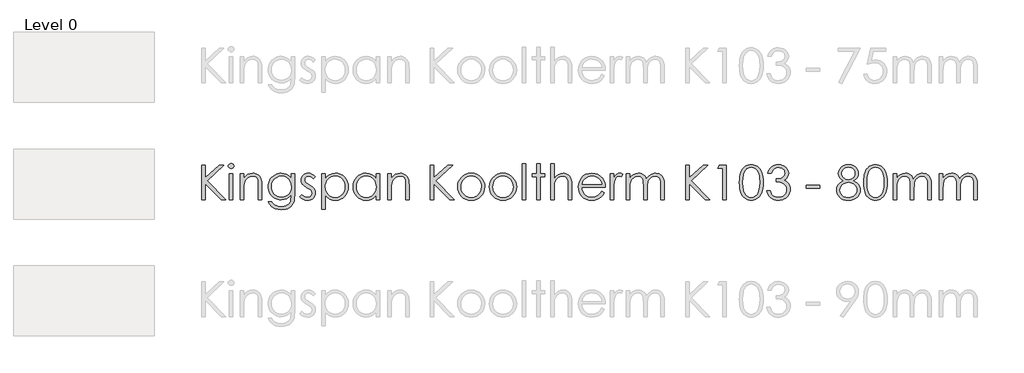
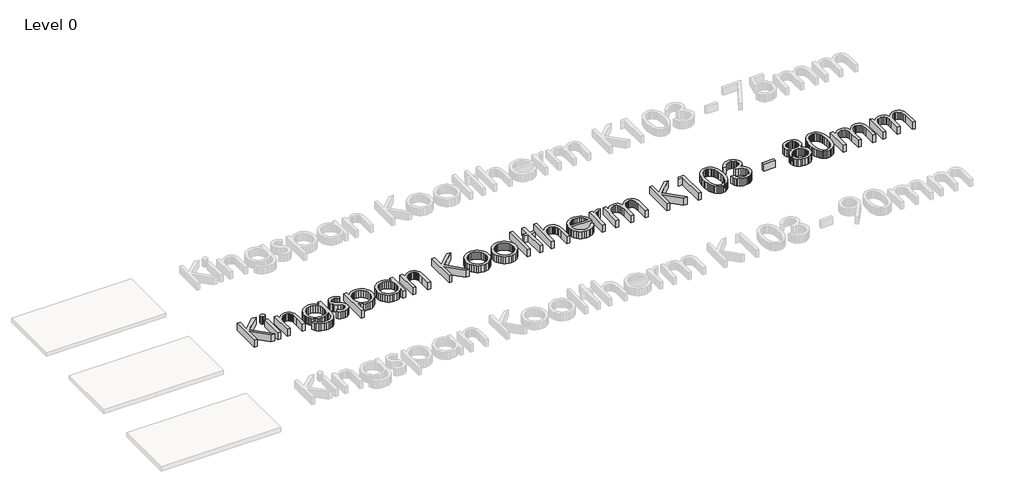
# One storey, part 7 of 13: 1 proxy.
"""IFC4 building model written with IfcOpenShell, lengths in millimetres."""

import ifcopenshell
import ifcopenshell.guid

model = None  # the IFC model being written
_history = None  # IfcOwnerHistory: only IFC2X3 demands one
_inside = {}  # id of a spatial element -> (the spatial element, [elements in it])
_under = {}  # id of a project, library or spatial element -> (it, [spatial elements below it])
_declared = {}  # id of a project -> (the project, [libraries it declares])
_typed = {}  # id of a type object -> (the type object, [elements of that type])
_made_of = {}  # id of a material, layer set ... -> (it, [elements and type objects made of it])


def new_model(schema):
    """Start an empty IFC model of exactly this schema.

    Asked for "IFC4X3", IfcOpenShell would pick the latest addendum, in which some entities
    have other attributes; the version numbers below select the first issue.
    IFC2X3 requires an IfcOwnerHistory on every rooted entity: one is made here for all.
    """
    global model, _history
    if schema == "IFC4X3":
        model = ifcopenshell.file(schema_version=(4, 3, 0, 0))
    else:
        model = ifcopenshell.file(schema=schema)
    _inside.clear()
    _under.clear()
    _declared.clear()
    _typed.clear()
    _made_of.clear()
    _history = None
    if model.schema == "IFC2X3":
        org = make("IfcOrganization", Name="unknown")
        user = make(
            "IfcPersonAndOrganization",
            ThePerson=make("IfcPerson", FamilyName="unknown"),
            TheOrganization=org,
        )
        app = make(
            "IfcApplication",
            ApplicationDeveloper=org,
            Version="unknown",
            ApplicationFullName="unknown",
            ApplicationIdentifier="unknown",
        )
        _history = make(
            "IfcOwnerHistory",
            OwningUser=user,
            OwningApplication=app,
            ChangeAction="ADDED",
            CreationDate=0,
        )
    return model


def make(cls, **values):
    """One entity of the class cls with the attributes given. An attribute that is None is left unset."""
    return model.create_entity(
        cls, **{name: value for name, value in values.items() if value is not None}
    )


def rooted(cls, **values):
    """An entity with a GlobalId (a new one), such as an element, a storey or a relation."""
    return make(cls, GlobalId=ifcopenshell.guid.new(), OwnerHistory=_history, **values)


def si_unit(unit_type, name, prefix=None):
    """IfcSIUnit, for example si_unit("LENGTHUNIT", "METRE", prefix="MILLI")."""
    return make("IfcSIUnit", UnitType=unit_type, Prefix=prefix, Name=name)


def assignment(units):
    """IfcUnitAssignment: the units of a project."""
    return None if units is None else make("IfcUnitAssignment", Units=units)


def point(xyz):
    """IfcCartesianPoint."""
    return None if xyz is None else make("IfcCartesianPoint", Coordinates=xyz)


def direction(xyz):
    """IfcDirection."""
    return None if xyz is None else make("IfcDirection", DirectionRatios=xyz)


def frame(location, z_axis=None, x_axis=None):
    """IfcAxis2Placement3D, a coordinate frame: its origin and axes. An axis left out is left unset."""
    return make(
        "IfcAxis2Placement3D",
        Location=point(location),
        Axis=direction(z_axis),
        RefDirection=direction(x_axis),
    )


def origin():
    """The frame at (0, 0, 0) with its axes left unset."""
    return frame((0.0, 0.0, 0.0))


def origin_with_axes():
    """The frame at (0, 0, 0) with the z axis (0, 0, 1) and the x axis (1, 0, 0) written out."""
    return frame((0.0, 0.0, 0.0), z_axis=(0.0, 0.0, 1.0), x_axis=(1.0, 0.0, 0.0))


def place(relative_to, where):
    """IfcLocalPlacement: puts the frame where relative to a parent placement (None: the world)."""
    return make(
        "IfcLocalPlacement", PlacementRelTo=relative_to, RelativePlacement=where
    )


def context(
    kind, dimensions, precision=None, world=None, true_north=None, identifier=None
):
    """IfcGeometricRepresentationContext, for example the 3D "Model" context."""
    return make(
        "IfcGeometricRepresentationContext",
        ContextIdentifier=identifier,
        ContextType=kind,
        CoordinateSpaceDimension=dimensions,
        Precision=precision,
        WorldCoordinateSystem=world,
        TrueNorth=true_north,
    )


def project(units=None, contexts=None):
    """IfcProject with its units and contexts."""
    return rooted(
        "IfcProject",
        Name="project",
        RepresentationContexts=contexts,
        UnitsInContext=assignment(units),
    )


def spatial(cls, under=None, at=None, **own):
    """A site, building, storey or space (cls), placed at a placement, below another one or the project."""
    s = rooted(cls, ObjectPlacement=at, **own)
    if under is not None:
        _under.setdefault(under.id(), (under, []))[1].append(s)
    return s


def polyline(points):
    """IfcPolyline through the points."""
    return make("IfcPolyline", Points=[point(p) for p in points])


def outline(outer, holes=None, kind="AREA"):
    """IfcArbitraryClosedProfileDef: a profile drawn as a closed curve; with holes, ...WithVoids."""
    if holes is None:
        return make("IfcArbitraryClosedProfileDef", ProfileType=kind, OuterCurve=outer)
    return make(
        "IfcArbitraryProfileDefWithVoids",
        ProfileType=kind,
        OuterCurve=outer,
        InnerCurves=holes,
    )


def extrude(swept, where, along, depth):
    """IfcExtrudedAreaSolid: the profile swept, set in the frame where, extruded along a direction by depth."""
    return make(
        "IfcExtrudedAreaSolid",
        SweptArea=swept,
        Position=where,
        ExtrudedDirection=direction(along),
        Depth=depth,
    )


def shape(context_of_items, identifier, shape_type, items):
    """IfcShapeRepresentation: the items that make up one representation, for example the "Body"."""
    return make(
        "IfcShapeRepresentation",
        ContextOfItems=context_of_items,
        RepresentationIdentifier=identifier,
        RepresentationType=shape_type,
        Items=items,
    )


def made_of(thing, what):
    """Note that an element or type object is made of a material, layer set ...; save() writes the relation."""
    if what is not None:
        _made_of.setdefault(what.id(), (what, []))[1].append(thing)
    return thing


def element(
    cls,
    number,
    at=None,
    inside=None,
    cuts=None,
    type_object=None,
    material=None,
    context=None,
    identifier="Body",
    shape_type=None,
    held_by="IfcProductDefinitionShape",
    body=None,
    shapes=None,
    **own,
):
    """One element of the class cls, such as IfcWall. Its Tag is "e" and its number.

    at: its placement. inside: the storey or other place that contains it. cuts: it is an
    opening in that element (IfcRelVoidsElement). A single representation is given by context,
    identifier, shape_type and body (its items); several are given by shapes. held_by: the class
    of the entity that holds the representations. save() writes the other relations.
    """
    e = rooted(cls, Tag="e%d" % number, ObjectPlacement=at, **own)
    if body is not None:
        shapes = [shape(context, identifier, shape_type, body)]
    if shapes is not None:
        e.Representation = make(held_by, Representations=shapes)
    if inside is not None:
        _inside.setdefault(inside.id(), (inside, []))[1].append(e)
    if cuts is not None:
        rooted(
            "IfcRelVoidsElement", RelatingBuildingElement=cuts, RelatedOpeningElement=e
        )
    if type_object is not None:
        _typed.setdefault(type_object.id(), (type_object, []))[1].append(e)
    return made_of(e, material)


def aggregate(whole, parts):
    """IfcRelAggregates: a whole, such as a stair, and the parts it consists of."""
    return rooted("IfcRelAggregates", RelatingObject=whole, RelatedObjects=parts)


def save(model, path):
    """Write the relations noted so far, then the file.

    IfcRelAggregates (storeys below a building ...), IfcRelContainedInSpatialStructure (elements
    in a storey), IfcRelDefinesByType, IfcRelAssociatesMaterial and IfcRelDeclares: one each for
    every whole, place, type object, material and project.
    """
    for whole, parts in _under.values():
        aggregate(whole, parts)
    for where, things in _inside.values():
        rooted(
            "IfcRelContainedInSpatialStructure",
            RelatedElements=things,
            RelatingStructure=where,
        )
    for kind, things in _typed.values():
        rooted("IfcRelDefinesByType", RelatedObjects=things, RelatingType=kind)
    for what, things in _made_of.values():
        rooted("IfcRelAssociatesMaterial", RelatedObjects=things, RelatingMaterial=what)
    for by, libraries in _declared.values():
        rooted("IfcRelDeclares", RelatingContext=by, RelatedDefinitions=libraries)
    model.write(path)


model = new_model("IFC4")

# Units and contexts
model_context = context("Model", 3, world=origin())
ifc_project = project(units=[si_unit("LENGTHUNIT", "METRE", prefix="MILLI")], contexts=[model_context])

# Site, building, storey
site = spatial("IfcSite", under=ifc_project)
building = spatial("IfcBuilding", under=site)
storey = spatial("IfcBuildingStorey", under=building, Name="Level 0", Elevation=0.0)

# Proxy
placement = place(None, origin())
element("IfcBuildingElementProxy", 1, Name="600mm KI_CenturyGothic", ObjectType="600mm KI_CenturyGothic", at=placement, inside=storey, context=model_context, shape_type="SweptSolid", body=[
    extrude(outline(polyline([(-3852.2663848, -6099.1034017), (-3792.944575, -6099.1034017), (-3792.944575, -6318.316027), (-3555.1938841, -6099.1034017), (-3471.6181051, -6099.1034017), (-3760.9664119, -6366.0515459), (-3441.9572002, -6692.3214999), (-3520.8984627, -6692.3214999), (-3792.944575, -6414.0960325), (-3792.944575, -6692.3214999), (-3852.2663848, -6692.3214999), (-3852.2663848, -6099.1034017)])), origin_with_axes(), (0.0, 0.0, 1.0), 150.0),
    extrude(outline(polyline([(-3348.1854852, -6069.4424967), (-3329.145347, -6072.7252792), (-3313.1176445, -6082.5736265), (-3302.226531, -6097.0178693), (-3298.5961598, -6114.088338), (-3302.226531, -6130.9270809), (-3313.1176445, -6145.2940817), (-3329.145347, -6155.142429), (-3348.1854852, -6158.4252115), (-3366.9938975, -6155.142429), (-3382.9443581, -6145.2940817), (-3393.8354717, -6130.9270809), (-3397.4658428, -6114.088338), (-3393.8354717, -6097.0178693), (-3382.9443581, -6082.5736265), (-3366.9938975, -6072.7252792), (-3348.1854852, -6069.4424967)])), origin_with_axes(), (0.0, 0.0, 1.0), 150.0),
    extrude(outline(polyline([(-3377.6919062, -6247.4079262), (-3318.3700964, -6247.4079262), (-3318.3700964, -6692.3214999), (-3377.6919062, -6692.3214999), (-3377.6919062, -6247.4079262)])), origin_with_axes(), (0.0, 0.0, 1.0), 150.0),
    extrude(outline(polyline([(-3189.8395084, -6247.4079262), (-3130.5176986, -6247.4079262), (-3130.5176986, -6326.5036726), (-3096.9946967, -6286.9944204), (-3060.0730495, -6259.303185), (-3019.7141359, -6242.9665147), (-2975.879335, -6237.5209579), (-2953.4357238, -6239.0995901), (-2932.2955704, -6243.8354865), (-2912.4588747, -6251.7286472), (-2893.9256368, -6262.7790723), (-2877.212412, -6276.5039994), (-2862.835756, -6292.4206667), (-2841.0921499, -6330.8292213), (-2833.6238199, -6355.2087086), (-2828.2892984, -6385.5551357), (-2824.0216812, -6464.1488095), (-2824.0216812, -6692.3214999), (-2883.343491, -6692.3214999), (-2883.343491, -6479.1337458), (-2883.343491, -6376.092998), (-2884.7290183, -6355.2956057), (-2889.8125035, -6337.2403023), (-2898.2849788, -6321.9270877), (-2910.1464442, -6309.355962), (-2924.7403432, -6299.5558909), (-2941.4101193, -6292.5558401), (-2980.977303, -6286.9557994), (-3005.3471351, -6289.1137461), (-3028.4038541, -6295.5875862), (-3050.1474602, -6306.3773197), (-3070.5779533, -6321.4829466), (-3088.6622225, -6339.7651482), (-3103.3671568, -6360.084606), (-3114.6927562, -6382.44132), (-3122.6390208, -6406.8352901), (-3128.5480292, -6453.9142525), (-3130.5176986, -6528.4141035), (-3130.5176986, -6692.3214999), (-3189.8395084, -6692.3214999), (-3189.8395084, -6247.4079262)])), origin_with_axes(), (0.0, 0.0, 1.0), 150.0),
    extrude(outline(polyline([(-2319.7862977, -6247.4079262), (-2260.4644879, -6247.4079262), (-2260.4644879, -6598.395301), (-2264.5196897, -6678.6496765), (-2269.588692, -6709.4499001), (-2276.6852953, -6734.0321474), (-2289.9371156, -6762.6454585), (-2307.2924139, -6787.7732271), (-2328.7511904, -6809.4154531), (-2354.3134448, -6827.5721366), (-2383.3226209, -6841.9343098), (-2415.122162, -6852.1930049), (-2449.7120682, -6858.348222), (-2487.0923395, -6860.3999611), (-2541.0458345, -6856.3833802), (-2589.206184, -6844.3336376), (-2630.260275, -6825.5059147), (-2662.8949946, -6801.1553932), (-2690.2000204, -6767.8061856), (-2715.2650299, -6721.9824048), (-2655.94322, -6721.9824048), (-2642.4355358, -6743.151524), (-2627.0933555, -6761.3951046), (-2609.9166791, -6776.7131468), (-2590.9055067, -6789.1056506), (-2569.7894914, -6798.6691682), (-2546.2982864, -6805.5002523), (-2492.1903075, -6810.9651195), (-2438.5071593, -6805.6354257), (-2415.083541, -6798.9733084), (-2393.93856, -6789.6463441), (-2359.6624492, -6765.6047903), (-2336.8567664, -6736.1176798), (-2329.3884364, -6717.4782342), (-2324.0539149, -6693.7697863), (-2319.7862977, -6631.1458835), (-2319.7862977, -6608.4367532), (-2354.757586, -6644.2190818), (-2396.6420279, -6670.6165148), (-2443.392712, -6686.8952536), (-2492.9627269, -6692.3214999), (-2522.4063889, -6690.4242447), (-2550.9521133, -6684.7324793), (-2578.5999001, -6675.2462036), (-2605.3497494, -6661.9654175), (-2630.1540674, -6645.4742634), (-2651.9652601, -6626.3568832), (-2670.7833277, -6604.6132772), (-2686.6082702, -6580.2434451), (-2699.1456025, -6553.9280817), (-2708.1008399, -6526.3478816), (-2713.4739824, -6497.5028447), (-2715.2650299, -6467.392971), (-2713.3967404, -6437.1044753), (-2707.7918722, -6407.8780563), (-2698.4504251, -6379.713714), (-2685.3723991, -6352.6114483), (-2668.9971079, -6327.4257483), (-2649.7638648, -6305.0111029), (-2627.67267, -6285.367512), (-2602.7235235, -6268.4949758), (-2575.9833294, -6254.943843), (-2548.5189922, -6245.2644624), (-2520.3305117, -6239.456834), (-2491.4178881, -6237.5209579), (-2444.5320306, -6242.4644421), (-2400.8903346, -6257.2948945), (-2359.6045177, -6283.8661218), (-2319.7862977, -6324.0319306), (-2319.7862977, -6247.4079262)]), holes=[polyline([(-2484.1571458, -6286.9557994), (-2529.0154023, -6292.9806707), (-2570.5908765, -6311.0552847), (-2606.2187212, -6339.7699758), (-2633.2340897, -6377.7150788), (-2650.2659375, -6421.9940208), (-2655.94322, -6469.7102292), (-2653.0080263, -6505.6229036), (-2644.2024452, -6538.2817613), (-2629.5264766, -6567.6868023), (-2608.9801206, -6593.8380266), (-2583.7606272, -6615.296803), (-2555.0652466, -6630.6245004), (-2522.8939786, -6639.8211189), (-2487.2468234, -6642.8866584), (-2451.3244937, -6639.845257), (-2419.1001219, -6630.7210528), (-2390.573708, -6615.5140459), (-2365.7452519, -6594.2242363), (-2345.6382095, -6567.9812872), (-2331.2760363, -6537.9148621), (-2322.6587323, -6504.024961), (-2319.7862977, -6466.3115838), (-2325.0773706, -6417.6105407), (-2340.9505892, -6374.3936754), (-2366.4983608, -6338.1672056), (-2400.8130926, -6310.4373492), (-2440.9982119, -6292.8261869), (-2484.1571458, -6286.9557994)])]), origin_with_axes(), (0.0, 0.0, 1.0), 150.0),
    extrude(outline(polyline([(-1904.5336289, -6298.6965743), (-1940.9918246, -6336.390641), (-1962.9575012, -6314.7628978), (-1984.6721416, -6299.3145098), (-2006.1357456, -6290.045477), (-2027.3483133, -6286.9557994), (-2052.181597, -6291.6289368), (-2073.2300256, -6305.6483489), (-2087.5970264, -6325.8857371), (-2092.3860267, -6349.212803), (-2088.4466878, -6370.7633042), (-2076.628671, -6391.2324183), (-2052.0657341, -6413.400855), (-2010.2006027, -6439.122421), (-1958.3326401, -6471.9888664), (-1939.8428507, -6487.8138088), (-1926.315856, -6503.2332311), (-1909.9791857, -6535.9065716), (-1904.5336289, -6572.4420092), (-1906.9474396, -6598.5884059), (-1914.1888714, -6622.6492701), (-1926.2579245, -6644.624602), (-1943.1545989, -6664.5144015), (-1963.6719892, -6681.0055557), (-1986.6031901, -6692.7849515), (-2011.9482016, -6699.852589), (-2039.7070237, -6702.2084682), (-2077.4397114, -6698.3270607), (-2113.3958344, -6686.6828383), (-2145.4512394, -6668.2027042), (-2171.4817731, -6643.8135617), (-2135.7959969, -6603.3387852), (-2114.0041146, -6624.9665283), (-2091.5749863, -6640.4149163), (-2068.5086121, -6649.6839491), (-2044.8049918, -6652.7736267), (-2013.637869, -6647.1349651), (-1987.4914724, -6630.2189802), (-1969.7644472, -6605.6560434), (-1963.8554388, -6577.0765256), (-1967.7561567, -6553.2860081), (-1979.4583106, -6532.2762005), (-2005.0253927, -6510.5712154), (-2050.2119275, -6483.7682622), (-2099.762632, -6453.1032121), (-2117.441381, -6437.9444814), (-2130.3890611, -6422.9016136), (-2146.3781427, -6390.7689666), (-2151.7078365, -6354.310771), (-2149.5305794, -6330.2643896), (-2142.9988078, -6308.3325063), (-2132.1125219, -6288.5151211), (-2116.8717217, -6270.812234), (-2098.309518, -6256.2473007), (-2077.4590218, -6245.8437769), (-2054.3202332, -6239.6016627), (-2028.8931521, -6237.5209579), (-1997.9481, -6241.3444339), (-1966.9064954, -6252.814862), (-1935.7683384, -6271.9322421), (-1904.5336289, -6298.6965743)])), origin_with_axes(), (0.0, 0.0, 1.0), 150.0),
    extrude(outline(polyline([(-1795.7769776, -6247.4079262), (-1736.4551678, -6247.4079262), (-1736.4551678, -6328.5119631), (-1700.9238754, -6288.2689124), (-1660.4490989, -6259.9211205), (-1614.9922173, -6243.1209986), (-1564.5146096, -6237.5209579), (-1520.0618732, -6241.7596094), (-1478.9305402, -6254.4755637), (-1441.1206107, -6275.668821), (-1406.6320845, -6305.3393811), (-1377.9077381, -6340.9768811), (-1357.3903478, -6380.070958), (-1345.0799137, -6422.6216116), (-1340.9764356, -6468.628842), (-1345.0412927, -6515.5291824), (-1357.235864, -6558.7508754), (-1377.5601494, -6598.293921), (-1406.014149, -6634.1583192), (-1440.2130179, -6663.9302594), (-1477.7719111, -6685.1959309), (-1518.6908288, -6697.9553339), (-1562.9697708, -6702.2084682), (-1612.6170277, -6696.743601), (-1658.0545988, -6680.3489992), (-1699.3211052, -6653.1019049), (-1736.4551678, -6615.07956), (-1736.4551678, -6850.5129928), (-1795.7769776, -6850.5129928), (-1795.7769776, -6247.4079262)]), holes=[polyline([(-1568.5311905, -6286.9557994), (-1602.5852307, -6290.2530647), (-1633.8392507, -6300.1448607), (-1662.2932503, -6316.6311872), (-1687.9472295, -6339.7120444), (-1709.1694525, -6367.6977647), (-1724.3281832, -6398.8986808), (-1733.4234216, -6433.3147926), (-1736.4551678, -6470.9461002), (-1731.048232, -6519.8016272), (-1714.8274246, -6563.4819442), (-1688.5265441, -6600.3263495), (-1652.8793888, -6628.6741414), (-1611.4390881, -6646.7487554), (-1567.7587711, -6652.7736267), (-1525.0632888, -6646.7101344), (-1485.0326535, -6628.5196576), (-1450.2544701, -6599.4187567), (-1423.3163435, -6560.6239924), (-1406.05277, -6515.9588407), (-1400.2982454, -6469.2467775), (-1405.9948385, -6422.3029886), (-1423.0846177, -6377.8695627), (-1449.8103289, -6339.5189395), (-1484.414718, -6310.8235589), (-1524.7157001, -6292.9227393), (-1568.5311905, -6286.9557994)])]), origin_with_axes(), (0.0, 0.0, 1.0), 150.0),
    extrude(outline(polyline([(-807.0801472, -6247.4079262), (-807.0801472, -6692.3214999), (-866.401957, -6692.3214999), (-866.401957, -6616.4699149), (-903.4780882, -6654.3184655), (-944.8797679, -6681.0441767), (-990.4525125, -6696.9173953), (-1040.0418379, -6702.2084682), (-1084.3159523, -6697.9553339), (-1125.2203871, -6685.1959309), (-1162.7551422, -6663.9302594), (-1196.9202178, -6634.1583192), (-1225.340424, -6598.293921), (-1245.6405713, -6558.7508754), (-1257.8206597, -6515.5291824), (-1261.8806892, -6468.628842), (-1257.7820388, -6422.6216116), (-1245.4860875, -6380.070958), (-1224.9928353, -6340.9768811), (-1196.3022822, -6305.3393811), (-1161.8475494, -6275.668821), (-1124.061758, -6254.4755637), (-1082.9449079, -6241.7596094), (-1038.4969991, -6237.5209579), (-987.7490446, -6243.1209986), (-942.0990581, -6259.9211205), (-921.2051134, -6272.6081091), (-901.6242816, -6288.2689124), (-866.401957, -6328.5119631), (-866.401957, -6247.4079262), (-807.0801472, -6247.4079262)]), holes=[polyline([(-1034.3259343, -6286.9557994), (-1078.1414247, -6292.9227393), (-1118.4424068, -6310.8235589), (-1153.0467959, -6339.5189395), (-1179.7725071, -6377.8695627), (-1196.8622863, -6422.3029886), (-1202.5588794, -6469.2467775), (-1196.8043548, -6515.9588407), (-1179.5407813, -6560.6239924), (-1152.6026548, -6599.4187567), (-1117.8244713, -6628.5196576), (-1077.6779731, -6646.7101344), (-1034.6349021, -6652.7736267), (-991.0125165, -6646.7487554), (-949.7460102, -6628.6741414), (-914.2726493, -6600.3263495), (-888.0297002, -6563.4819442), (-871.8088928, -6519.8016272), (-866.401957, -6470.9461002), (-869.4337032, -6433.3147926), (-878.5289416, -6398.8986808), (-893.6876723, -6367.6977647), (-914.9098953, -6339.7120444), (-940.5638746, -6316.6311872), (-969.0178742, -6300.1448607), (-1000.2718941, -6290.2530647), (-1034.3259343, -6286.9557994)])]), origin_with_axes(), (0.0, 0.0, 1.0), 150.0),
    extrude(outline(polyline([(-668.662591, -6247.4079262), (-609.3407811, -6247.4079262), (-609.3407811, -6326.5036726), (-575.8177792, -6286.9944204), (-538.896132, -6259.303185), (-498.5372184, -6242.9665147), (-454.7024175, -6237.5209579), (-432.2588064, -6239.0995901), (-411.1186529, -6243.8354865), (-391.2819572, -6251.7286472), (-372.7487193, -6262.7790723), (-356.0354946, -6276.5039994), (-341.6588385, -6292.4206667), (-319.9152324, -6330.8292213), (-312.4469024, -6355.2087086), (-307.1123809, -6385.5551357), (-302.8447637, -6464.1488095), (-302.8447637, -6692.3214999), (-362.1665735, -6692.3214999), (-362.1665735, -6479.1337458), (-362.1665735, -6376.092998), (-363.5521008, -6355.2956057), (-368.635586, -6337.2403023), (-377.1080613, -6321.9270877), (-388.9695267, -6309.355962), (-403.5634257, -6299.5558909), (-420.2332018, -6292.5558401), (-459.8003855, -6286.9557994), (-484.1702176, -6289.1137461), (-507.2269366, -6295.5875862), (-528.9705427, -6306.3773197), (-549.4010358, -6321.4829466), (-567.485305, -6339.7651482), (-582.1902393, -6360.084606), (-593.5158387, -6382.44132), (-601.4621033, -6406.8352901), (-607.3711117, -6453.9142525), (-609.3407811, -6528.4141035), (-609.3407811, -6692.3214999), (-668.662591, -6692.3214999), (-668.662591, -6247.4079262)])), origin_with_axes(), (0.0, 0.0, 1.0), 150.0),
    extrude(outline(polyline([(62.9730635, -6099.1034017), (122.2948734, -6099.1034017), (122.2948734, -6318.316027), (360.0455643, -6099.1034017), (443.6213432, -6099.1034017), (154.2730365, -6366.0515459), (473.2822481, -6692.3214999), (394.3409856, -6692.3214999), (122.2948734, -6414.0960325), (122.2948734, -6692.3214999), (62.9730635, -6692.3214999), (62.9730635, -6099.1034017)])), origin_with_axes(), (0.0, 0.0, 1.0), 150.0),
    extrude(outline(polyline([(760.1588128, -6237.5209579), (809.4681362, -6242.1458191), (854.3553585, -6256.0204025), (894.8204798, -6279.1447083), (930.8635, -6311.5187363), (957.7630055, -6346.7507161), (976.9769381, -6385.091684), (988.5052976, -6426.54164), (992.3480841, -6471.1005841), (988.283227, -6515.9153921), (976.0886558, -6557.8239721), (955.7643703, -6596.8263241), (927.3103707, -6632.9224481), (892.4742558, -6663.2350819), (853.0036246, -6684.8869632), (808.8984769, -6697.8780919), (760.1588128, -6702.2084682), (711.2839754, -6697.8780919), (667.0822753, -6684.8869632), (627.5537126, -6663.2350819), (592.6982872, -6632.9224481), (564.2442876, -6596.8263241), (543.9200022, -6557.8239721), (531.7254309, -6515.9153921), (527.6605738, -6471.1005841), (531.5033603, -6426.7347449), (543.0317198, -6385.4006518), (562.2456524, -6347.0983049), (589.145158, -6311.8277041), (625.2074886, -6279.3185026), (665.7305413, -6256.0976445), (710.7143161, -6242.1651295), (760.1588128, -6237.5209579)]), holes=[polyline([(760.004329, -6286.9557994), (725.7282181, -6290.3303067), (693.9624704, -6300.4538284), (664.7070856, -6317.3263647), (637.962064, -6340.9479154), (615.6584538, -6369.3584664), (599.7273037, -6400.5980035), (590.1686137, -6434.6665266), (586.9823836, -6471.5640357), (592.7948396, -6519.2995546), (610.2322075, -6563.6364281), (637.5758543, -6601.4270471), (673.1071466, -6629.5238028), (714.6439998, -6646.9611707), (760.004329, -6652.7736267), (805.3646581, -6646.9611707), (846.9015113, -6629.5238028), (882.4328037, -6601.4270471), (909.7764504, -6563.6364281), (927.2138183, -6519.2995546), (933.0262743, -6471.5640357), (929.8255614, -6434.6665266), (920.2234227, -6400.5980035), (904.2198583, -6369.3584664), (881.8148681, -6340.9479154), (854.9974321, -6317.3263647), (825.7565303, -6300.4538284), (794.0921625, -6290.3303067), (760.004329, -6286.9557994)])]), origin_with_axes(), (0.0, 0.0, 1.0), 150.0),
    extrude(outline(polyline([(1303.9420695, -6237.5209579), (1353.2513929, -6242.1458191), (1398.1386152, -6256.0204025), (1438.6037365, -6279.1447083), (1474.6467567, -6311.5187363), (1501.5462622, -6346.7507161), (1520.7601948, -6385.091684), (1532.2885543, -6426.54164), (1536.1313408, -6471.1005841), (1532.0664837, -6515.9153921), (1519.8719125, -6557.8239721), (1499.547627, -6596.8263241), (1471.0936274, -6632.9224481), (1436.2575126, -6663.2350819), (1396.7868813, -6684.8869632), (1352.6817336, -6697.8780919), (1303.9420695, -6702.2084682), (1255.0672321, -6697.8780919), (1210.865532, -6684.8869632), (1171.3369693, -6663.2350819), (1136.4815439, -6632.9224481), (1108.0275443, -6596.8263241), (1087.7032589, -6557.8239721), (1075.5086876, -6515.9153921), (1071.4438305, -6471.1005841), (1075.286617, -6426.7347449), (1086.8149766, -6385.4006518), (1106.0289091, -6347.0983049), (1132.9284147, -6311.8277041), (1168.9907453, -6279.3185026), (1209.5137981, -6256.0976445), (1254.4975728, -6242.1651295), (1303.9420695, -6237.5209579)]), holes=[polyline([(1303.7875857, -6286.9557994), (1269.5114748, -6290.3303067), (1237.7457271, -6300.4538284), (1208.4903423, -6317.3263647), (1181.7453207, -6340.9479154), (1159.4417105, -6369.3584664), (1143.5105604, -6400.5980035), (1133.9518704, -6434.6665266), (1130.7656404, -6471.5640357), (1136.5780963, -6519.2995546), (1154.0154643, -6563.6364281), (1181.359111, -6601.4270471), (1216.8904033, -6629.5238028), (1258.4272565, -6646.9611707), (1303.7875857, -6652.7736267), (1349.1479149, -6646.9611707), (1390.684768, -6629.5238028), (1426.2160604, -6601.4270471), (1453.5597071, -6563.6364281), (1470.997075, -6519.2995546), (1476.809531, -6471.5640357), (1473.6088181, -6434.6665266), (1464.0066795, -6400.5980035), (1448.003115, -6369.3584664), (1425.5981249, -6340.9479154), (1398.7806889, -6317.3263647), (1369.539787, -6300.4538284), (1337.8754193, -6290.3303067), (1303.7875857, -6286.9557994)])]), origin_with_axes(), (0.0, 0.0, 1.0), 150.0),
    extrude(outline(polyline([(1635.0010238, -6079.3294651), (1694.3228337, -6079.3294651), (1694.3228337, -6692.3214999), (1635.0010238, -6692.3214999), (1635.0010238, -6079.3294651)])), origin_with_axes(), (0.0, 0.0, 1.0), 150.0),
    extrude(outline(polyline([(1882.1752314, -6079.3294651), (1941.4970413, -6079.3294651), (1941.4970413, -6247.4079262), (2020.5927877, -6247.4079262), (2020.5927877, -6296.8427677), (1941.4970413, -6296.8427677), (1941.4970413, -6692.3214999), (1882.1752314, -6692.3214999), (1882.1752314, -6296.8427677), (1803.079485, -6296.8427677), (1803.079485, -6247.4079262), (1882.1752314, -6247.4079262), (1882.1752314, -6079.3294651)])), origin_with_axes(), (0.0, 0.0, 1.0), 150.0),
    extrude(outline(polyline([(2119.4624707, -6079.3294651), (2178.7842806, -6079.3294651), (2178.7842806, -6328.0485114), (2212.5583188, -6288.3461544), (2249.6151394, -6260.0756044), (2289.9161216, -6243.1596195), (2333.4226442, -6237.5209579), (2355.8662553, -6239.0995901), (2377.0064088, -6243.8354865), (2396.8431044, -6251.7286472), (2415.3763424, -6262.7790723), (2432.0895671, -6276.4895166), (2446.4662232, -6292.3627352), (2468.2098293, -6330.5974955), (2475.6781593, -6354.9045684), (2481.0126808, -6385.2654784), (2485.280298, -6464.1488095), (2485.280298, -6692.3214999), (2425.9584882, -6692.3214999), (2425.9584882, -6479.1337458), (2424.5681332, -6414.752589), (2420.3970685, -6376.092998), (2406.879729, -6337.2403023), (2397.1665551, -6321.9270877), (2385.4837117, -6309.355962), (2371.840854, -6299.5558909), (2356.2476374, -6292.5558401), (2319.2101273, -6286.9557994), (2296.3416854, -6289.1137461), (2274.6994594, -6295.5875862), (2254.2834492, -6306.3773197), (2235.0936547, -6321.4829466), (2218.1052556, -6339.7651482), (2204.2934312, -6360.084606), (2193.6581816, -6382.44132), (2186.1995068, -6406.8352901), (2180.6380871, -6453.6825267), (2178.7842806, -6528.4141035), (2178.7842806, -6692.3214999), (2119.4624707, -6692.3214999), (2119.4624707, -6079.3294651)])), origin_with_axes(), (0.0, 0.0, 1.0), 150.0),
    extrude(outline(polyline([(2991.0605203, -6544.0169753), (3038.950523, -6569.1978477), (3013.3255094, -6611.0822896), (2984.0315038, -6644.0452875), (2950.952643, -6669.1296074), (2913.9730643, -6687.3780157), (2872.4941426, -6698.5008551), (2825.9172528, -6702.2084682), (2774.4258447, -6697.7767119), (2728.8627554, -6684.481443), (2689.227985, -6662.3226615), (2655.5215335, -6631.3003674), (2628.6220279, -6594.6973431), (2609.4080954, -6555.7963712), (2597.8797358, -6514.5974515), (2594.0369493, -6471.1005841), (2597.3197318, -6430.2202874), (2607.1680791, -6391.618628), (2623.5819913, -6355.2956057), (2646.5614684, -6321.2512207), (2682.7493173, -6284.6192308), (2724.5758277, -6258.4535236), (2772.0409998, -6242.7540993), (2825.1448334, -6237.5209579), (2879.7935059, -6242.8892727), (2928.6490329, -6258.9942172), (2971.7114143, -6285.8357913), (3008.9806503, -6323.4139951), (3030.4539096, -6355.585263), (3045.9022976, -6391.541386), (3055.3258143, -6431.2823641), (3058.7244596, -6474.8081972), (2653.3587591, -6474.8081972), (2657.095338, -6512.0629503), (2666.6057518, -6545.8128504), (2681.8900007, -6576.0578975), (2702.9480845, -6602.7980916), (2728.3124066, -6624.6623882), (2756.5153699, -6640.2797429), (2787.5569744, -6649.6501557), (2821.4372203, -6652.7736267), (2854.9602222, -6649.761191), (2887.5563208, -6640.7238841), (2917.2944677, -6626.6851615), (2942.2436143, -6608.668479), (2965.725164, -6582.5027719), (2991.0605203, -6544.0169753)]), holes=[polyline([(2999.4026498, -6425.3733557), (2984.9777175, -6382.8516678), (2965.1844704, -6349.8307385), (2939.0766947, -6324.3022774), (2905.7081767, -6304.257994), (2867.7630738, -6291.2813481), (2827.9255433, -6286.9557994), (2795.503239, -6289.6689226), (2765.4368139, -6297.808292), (2737.726268, -6311.3739077), (2712.3716012, -6330.3657696), (2695.8321708, -6348.179692), (2681.4362043, -6369.9522638), (2669.1837016, -6395.683485), (2659.0746627, -6425.3733557), (2999.4026498, -6425.3733557)])]), origin_with_axes(), (0.0, 0.0, 1.0), 150.0),
    extrude(outline(polyline([(3137.820206, -6247.4079262), (3197.1420159, -6247.4079262), (3197.1420159, -6311.8277041), (3222.6897875, -6278.7874643), (3249.589293, -6255.6728138), (3277.7632906, -6242.0589219), (3307.1345382, -6237.5209579), (3330.4616041, -6241.305813), (3355.3335087, -6252.6603781), (3325.8270877, -6294.6799934), (3297.2475699, -6286.9557994), (3270.8308265, -6292.9034288), (3245.3409863, -6310.7463169), (3223.2884125, -6341.1023993), (3207.183468, -6384.5896114), (3199.6523789, -6442.7141712), (3197.1420159, -6540.1548783), (3197.1420159, -6692.3214999), (3137.820206, -6692.3214999), (3137.820206, -6247.4079262)])), origin_with_axes(), (0.0, 0.0, 1.0), 150.0),
    extrude(outline(polyline([(3414.6553185, -6247.4079262), (3473.9771284, -6247.4079262), (3473.9771284, -6323.5684789), (3503.5607913, -6287.0716623), (3533.9168737, -6261.9294109), (3577.3268439, -6243.6230712), (3622.8995884, -6237.5209579), (3653.7384329, -6240.668567), (3682.9165757, -6250.1113941), (3708.6767627, -6264.7873627), (3729.2617397, -6283.634396), (3746.0425511, -6309.0663047), (3760.3902414, -6343.4968994), (3775.16759, -6319.0981017), (3791.6925376, -6297.808292), (3809.965084, -6279.6274704), (3829.9852293, -6264.5556369), (3851.2798666, -6252.7279648), (3873.375889, -6244.2796277), (3896.2732965, -6239.2106253), (3919.9720892, -6237.5209579), (3962.3006723, -6243.3334139), (3981.4952943, -6250.5989839), (3999.3768034, -6260.7707818), (4015.4914031, -6273.53984), (4029.385297, -6288.5971907), (4050.5109676, -6325.5767694), (4057.8103309, -6348.9521114), (4063.0241619, -6377.5219739), (4067.1952266, -6450.2452603), (4067.1952266, -6692.3214999), (4007.8734168, -6692.3214999), (4007.8734168, -6446.6921311), (4005.4209852, -6385.5744462), (3998.0636904, -6347.1272706), (3984.7587663, -6322.6608861), (3964.4634466, -6303.4855746), (3938.3942919, -6291.0882432), (3907.7678627, -6286.9557994), (3888.1194443, -6288.5054659), (3869.3399976, -6293.1544651), (3834.3880198, -6311.7504621), (3805.6540182, -6340.6968791), (3785.8800816, -6377.9468046), (3779.1889985, -6402.1042213), (3774.4096535, -6433.1747916), (3770.5861775, -6516.0553931), (3770.5861775, -6692.3214999), (3711.2643677, -6692.3214999), (3711.2643677, -6461.9860352), (3708.850557, -6393.530366), (3701.6091252, -6351.2983353), (3688.3621325, -6325.0553863), (3667.9316394, -6304.5669617), (3641.6114484, -6291.35859), (3610.6953619, -6286.9557994), (3573.7544042, -6292.9999812), (3539.2465676, -6311.1325266), (3510.2808401, -6339.499629), (3489.9662099, -6376.2474819), (3477.9743988, -6428.0768236), (3473.9771284, -6501.6883923), (3473.9771284, -6692.3214999), (3414.6553185, -6692.3214999), (3414.6553185, -6247.4079262)])), origin_with_axes(), (0.0, 0.0, 1.0), 150.0),
    extrude(outline(polyline([(4433.0130538, -6099.1034017), (4492.3348637, -6099.1034017), (4492.3348637, -6318.316027), (4730.0855546, -6099.1034017), (4813.6613335, -6099.1034017), (4524.3130268, -6366.0515459), (4843.3222385, -6692.3214999), (4764.3809759, -6692.3214999), (4492.3348637, -6414.0960325), (4492.3348637, -6692.3214999), (4433.0130538, -6692.3214999), (4433.0130538, -6099.1034017)])), origin_with_axes(), (0.0, 0.0, 1.0), 150.0),
    extrude(outline(polyline([(5010.6282802, -6099.1034017), (5125.1008351, -6099.1034017), (5125.1008351, -6692.3214999), (5065.7790253, -6692.3214999), (5065.7790253, -6148.5382432), (4976.7963106, -6148.5382432), (5010.6282802, -6099.1034017)])), origin_with_axes(), (0.0, 0.0, 1.0), 150.0),
    extrude(outline(polyline([(5352.5011061, -6395.8669347), (5354.0797383, -6341.4355052), (5358.8156347, -6293.5406748), (5366.7087954, -6252.1824436), (5377.7592204, -6217.3608116), (5391.6869077, -6187.7192172), (5408.2118552, -6161.9010988), (5427.334063, -6139.9064564), (5449.053531, -6121.73529), (5472.747496, -6107.5082902), (5497.793195, -6097.3461475), (5524.190628, -6091.2488619), (5551.9397949, -6089.2164334), (5580.1427582, -6091.2633448), (5606.974677, -6097.404079), (5632.4355515, -6107.638636), (5656.5253815, -6121.9670159), (5678.7083011, -6140.3843909), (5698.4484443, -6162.8859335), (5715.7458112, -6189.4716437), (5730.6004018, -6220.1415214), (5742.5294539, -6255.6583309), (5751.0502054, -6296.7848363), (5756.1626563, -6343.5210375), (5757.8668066, -6395.8669347), (5756.1867944, -6448.0535203), (5751.1467578, -6494.6207548), (5742.7466968, -6535.5686382), (5730.9866115, -6570.8971704), (5716.2768496, -6601.4222195), (5699.0277589, -6627.9596535), (5679.2393394, -6650.5094723), (5656.9115912, -6669.071676), (5632.6527944, -6683.5690226), (5607.0712295, -6693.9242701), (5580.1668963, -6700.1374187), (5551.9397949, -6702.2084682), (5524.2147661, -6700.2001778), (5497.8897474, -6694.1753064), (5472.964739, -6684.1338543), (5449.4397407, -6670.0758212), (5427.8651013, -6652.0398282), (5408.7911698, -6630.0644964), (5392.2179461, -6604.1498255), (5378.1454301, -6574.2958158), (5366.9260384, -6539.2762513), (5358.9121871, -6497.8649163), (5354.1038764, -6450.0618107), (5352.5011061, -6395.8669347)]), holes=[polyline([(5411.8229159, -6395.7124508), (5416.206396, -6484.038609), (5421.6857461, -6519.0195525), (5429.3568363, -6547.8790723), (5439.1713903, -6572.1185586), (5451.0811319, -6593.2394015), (5465.0860611, -6611.2416011), (5481.1861779, -6626.1251574), (5516.4857445, -6646.1115094), (5534.8886366, -6651.1080973), (5553.7936014, -6652.7736267), (5572.7854634, -6651.1418907), (5591.1400794, -6646.2466828), (5625.9375733, -6626.665851), (5641.694929, -6611.9898824), (5655.4439943, -6594.0697524), (5667.1847692, -6572.9054608), (5676.9172536, -6548.4970078), (5686.3793912, -6515.1381451), (5693.138061, -6478.5544313), (5698.5449967, -6395.7124508), (5693.7173755, -6314.1063413), (5687.682849, -6279.4150551), (5679.2345118, -6248.7982811), (5668.652366, -6222.135329), (5656.2164137, -6199.3055082), (5641.9266548, -6180.3088186), (5625.7830894, -6165.1452603), (5590.7152487, -6145.2747712), (5572.4861509, -6140.307149), (5553.7936014, -6138.6512749), (5534.7776014, -6140.307149), (5516.3505711, -6145.2747712), (5481.2634199, -6165.1452603), (5465.3177869, -6179.9564022), (5451.3900996, -6197.8958428), (5439.480358, -6218.9635819), (5429.5885621, -6243.1596195), (5421.8160919, -6272.0143117), (5416.2643275, -6307.0580143), (5411.8229159, -6395.7124508)])]), origin_with_axes(), (0.0, 0.0, 1.0), 150.0),
    extrude(outline(polyline([(5896.2843628, -6237.5209579), (5836.962553, -6237.5209579), (5847.4867673, -6203.8917483), (5861.9116996, -6174.3756721), (5880.2373498, -6148.9727291), (5902.463718, -6127.6829194), (5927.7314876, -6110.8538318), (5955.181342, -6098.8330549), (5984.8132812, -6091.6205887), (6016.6273051, -6089.2164334), (6062.9145376, -6094.3723328), (6105.9962296, -6109.8400313), (6142.7827034, -6134.0553795), (6170.1842816, -6165.454228), (6187.2161294, -6201.2365567), (6192.8934119, -6238.6023451), (6188.2106193, -6274.037085), (6174.1622415, -6305.5711069), (6150.7482785, -6333.2044109), (6117.9687303, -6356.936997), (6155.3538292, -6378.1012885), (6185.3237018, -6407.2987418), (6201.6120959, -6431.398227), (6213.2466631, -6456.8880672), (6220.2274034, -6483.7682622), (6222.5543169, -6512.0388122), (6220.8549942, -6536.7031292), (6215.7570261, -6560.7977868), (6207.2604128, -6584.3227851), (6195.365154, -6607.2781241), (6180.5347016, -6628.6644862), (6163.232507, -6647.4825538), (6143.4585704, -6663.7323269), (6121.2128917, -6677.4138055), (6097.0361646, -6688.2614704), (6071.4690825, -6696.0098025), (6044.5116454, -6700.6588018), (6016.1638535, -6702.2084682), (5978.6290984, -6699.5387936), (5944.3481599, -6691.52977), (5913.3210382, -6678.1813973), (5885.5477332, -6659.4936754), (5861.6654909, -6635.6403989), (5842.3115573, -6606.795362), (5827.4859325, -6572.9585647), (5817.1886164, -6534.130007), (5876.5104262, -6534.130007), (5895.5505644, -6584.8779615), (5907.6485832, -6604.169136), (5921.4652352, -6619.4051087), (5941.5288291, -6634.0038353), (5964.180028, -6644.4314972), (5989.4188318, -6650.6880943), (6017.2452407, -6652.7736267), (6048.6054683, -6650.2777465), (6076.7215344, -6642.7901059), (6101.593439, -6630.310705), (6123.2211822, -6612.8395438), (6140.7261368, -6592.0180133), (6153.2296758, -6569.487505), (6160.7317992, -6545.2480188), (6163.232507, -6519.2995546), (6158.2310914, -6484.7337865), (6143.2268446, -6452.4080346), (6119.8032263, -6425.0450774), (6089.5436964, -6405.3676933), (6046.6357988, -6392.5648417), (5985.2670776, -6385.8254825), (5985.2670776, -6336.390641), (6027.1515195, -6332.7409593), (6065.0580014, -6321.7919143), (6096.0706403, -6305.2042077), (6117.2735528, -6284.6385412), (6129.4970898, -6261.0797496), (6133.5716021, -6235.5126675), (6131.5102078, -6216.4821845), (6125.326025, -6198.7841251), (6115.0190537, -6182.4184891), (6100.5892938, -6167.3852765), (6083.0119248, -6154.8141508), (6063.2621263, -6145.8347753), (6041.3398983, -6140.44715), (6017.2452407, -6138.6512749), (5979.2228958, -6144.270626), (5946.7233496, -6161.1286794), (5932.4191078, -6174.3322235), (5919.2445295, -6191.4654513), (5896.2843628, -6237.5209579)])), origin_with_axes(), (0.0, 0.0, 1.0), 150.0),
    extrude(outline(polyline([(6499.3894294, -6445.1472923), (6726.7897004, -6445.1472923), (6726.7897004, -6494.5821338), (6499.3894294, -6494.5821338), (6499.3894294, -6445.1472923)])), origin_with_axes(), (0.0, 0.0, 1.0), 150.0),
    extrude(outline(polyline([(7304.095959, -6368.2143202), (7356.1956474, -6399.6131687), (7376.0178602, -6416.8477766), (7391.6883188, -6435.1058401), (7403.5835775, -6454.5225327), (7412.0801909, -6475.2330279), (7417.1781589, -6497.2373255), (7418.8774816, -6520.5354256), (7416.0581508, -6553.2184214), (7407.6001584, -6583.9124373), (7393.5035044, -6612.6174732), (7373.7681887, -6639.3335291), (7343.0741729, -6666.841315), (7306.4518381, -6686.4897334), (7263.9011845, -6698.2787845), (7215.422212, -6702.2084682), (7168.7584251, -6698.756719), (7128.100199, -6688.4014714), (7093.4475337, -6671.1427255), (7064.8004292, -6646.9804812), (7042.3616457, -6618.6664826), (7026.3339432, -6588.9524739), (7016.7173217, -6557.838455), (7013.5117812, -6525.3244259), (7015.2255867, -6501.5966675), (7020.3670033, -6479.0758144), (7028.936031, -6457.7618666), (7040.9326698, -6437.6548241), (7056.8300266, -6418.6871003), (7077.1012082, -6400.7911083), (7101.7462146, -6383.9668483), (7130.7650459, -6368.2143202), (7092.3951123, -6343.2651736), (7065.0321551, -6312.9090912), (7048.6375533, -6278.6522909), (7043.1726861, -6242.0009904), (7048.9658316, -6204.2876133), (7066.345268, -6167.4625184), (7093.9592615, -6134.9436618), (7130.4560781, -6110.1489991), (7173.055008, -6094.4495748), (7218.9753412, -6089.2164334), (7263.7177349, -6094.4881958), (7304.9456203, -6110.3034829), (7340.1486344, -6135.1753876), (7366.8164141, -6167.6170023), (7383.6165361, -6204.7510649), (7389.2165767, -6243.7003131), (7383.9061933, -6281.2398959), (7367.9750432, -6314.45393), (7341.3845054, -6343.4196575), (7304.095959, -6368.2143202)]), holes=[polyline([(7216.0401475, -6138.6512749), (7192.5344597, -6140.5099091), (7171.14327, -6146.0858116), (7151.8665783, -6155.3789825), (7134.7043848, -6168.3894217), (7120.6125584, -6183.9778107), (7110.5469681, -6201.0048308), (7104.507614, -6219.4704821), (7102.4944959, -6239.3747645), (7104.6620978, -6259.2838745), (7111.1649037, -6278.2274602), (7122.0029133, -6296.2055217), (7137.1761269, -6313.218059), (7155.236258, -6327.6816122), (7174.7350202, -6338.0127217), (7195.6724135, -6344.2113874), (7218.048438, -6346.2776093), (7246.7631291, -6342.5313752), (7273.8943605, -6331.2926729), (7297.3565997, -6313.5463372), (7315.0643144, -6290.2772028), (7326.1871538, -6264.2273586), (7329.8947669, -6238.1388934), (7328.0699261, -6219.9677271), (7322.5954036, -6202.5303592), (7313.4711994, -6185.8267897), (7300.6973136, -6169.8570186), (7284.4571958, -6156.2045057), (7264.9342955, -6146.4527108), (7242.1286127, -6140.6016339), (7216.0401475, -6138.6512749)]), polyline([(7219.284309, -6395.7124508), (7189.4158164, -6398.2228138), (7162.067342, -6405.753903), (7137.238886, -6418.3057182), (7114.9304482, -6435.8782595), (7096.5130732, -6456.7818595), (7083.3578053, -6479.3268507), (7075.4646446, -6503.5132331), (7072.833591, -6529.3410068), (7077.332934, -6561.4543433), (7090.830963, -6591.6752522), (7112.4007747, -6617.6092335), (7141.1154658, -6636.8617871), (7175.9902017, -6648.7956668), (7216.0401475, -6652.7736267), (7247.2603741, -6650.3549884), (7275.110921, -6643.0990737), (7299.5917884, -6631.0058825), (7320.702976, -6614.0754148), (7337.7010304, -6593.9104409), (7349.8424979, -6572.113731), (7357.1273783, -6548.6852851), (7359.5556718, -6523.6251032), (7356.9873773, -6499.2938921), (7349.2824938, -6476.353036), (7336.4410213, -6454.8025348), (7318.4629598, -6434.6423885), (7296.8545271, -6417.6105407), (7273.1219411, -6405.4449352), (7247.2652017, -6398.1455719), (7219.284309, -6395.7124508)])]), origin_with_axes(), (0.0, 0.0, 1.0), 150.0),
    extrude(outline(polyline([(7478.1992914, -6395.8669347), (7479.7779236, -6341.4355052), (7484.51382, -6293.5406748), (7492.4069808, -6252.1824436), (7503.4574058, -6217.3608116), (7517.3850931, -6187.7192172), (7533.9100406, -6161.9010988), (7553.0322483, -6139.9064564), (7574.7517163, -6121.73529), (7598.4456813, -6107.5082902), (7623.4913804, -6097.3461475), (7649.8888133, -6091.2488619), (7677.6379802, -6089.2164334), (7705.8409435, -6091.2633448), (7732.6728624, -6097.404079), (7758.1337368, -6107.638636), (7782.2235668, -6121.9670159), (7804.4064864, -6140.3843909), (7824.1466297, -6162.8859335), (7841.4439966, -6189.4716437), (7856.2985871, -6220.1415214), (7868.2276392, -6255.6583309), (7876.7483907, -6296.7848363), (7881.8608416, -6343.5210375), (7883.5649919, -6395.8669347), (7881.8849797, -6448.0535203), (7876.8449431, -6494.6207548), (7868.4448822, -6535.5686382), (7856.6847968, -6570.8971704), (7841.9750349, -6601.4222195), (7824.7259442, -6627.9596535), (7804.9375247, -6650.5094723), (7782.6097765, -6669.071676), (7758.3509797, -6683.5690226), (7732.7694148, -6693.9242701), (7705.8650816, -6700.1374187), (7677.6379802, -6702.2084682), (7649.9129514, -6700.2001778), (7623.5879328, -6694.1753064), (7598.6629243, -6684.1338543), (7575.137926, -6670.0758212), (7553.5632867, -6652.0398282), (7534.4893551, -6630.0644964), (7517.9161314, -6604.1498255), (7503.8436155, -6574.2958158), (7492.6242237, -6539.2762513), (7484.6103725, -6497.8649163), (7479.8020617, -6450.0618107), (7478.1992914, -6395.8669347)]), holes=[polyline([(7537.5211013, -6395.7124508), (7541.9045814, -6484.038609), (7547.3839315, -6519.0195525), (7555.0550216, -6547.8790723), (7564.8695756, -6572.1185586), (7576.7793172, -6593.2394015), (7590.7842464, -6611.2416011), (7606.8843633, -6626.1251574), (7642.1839298, -6646.1115094), (7660.586822, -6651.1080973), (7679.4917868, -6652.7736267), (7698.4836487, -6651.1418907), (7716.8382647, -6646.2466828), (7751.6357586, -6626.665851), (7767.3931143, -6611.9898824), (7781.1421796, -6594.0697524), (7792.8829545, -6572.9054608), (7802.6154389, -6548.4970078), (7812.0775766, -6515.1381451), (7818.8362463, -6478.5544313), (7824.2431821, -6395.7124508), (7819.4155608, -6314.1063413), (7813.3810343, -6279.4150551), (7804.9326971, -6248.7982811), (7794.3505514, -6222.135329), (7781.914599, -6199.3055082), (7767.6248402, -6180.3088186), (7751.4812747, -6165.1452603), (7716.413434, -6145.2747712), (7698.1843362, -6140.307149), (7679.4917868, -6138.6512749), (7660.4757867, -6140.307149), (7642.0487564, -6145.2747712), (7606.9616052, -6165.1452603), (7591.0159723, -6179.9564022), (7577.088285, -6197.8958428), (7565.1785434, -6218.9635819), (7555.2867474, -6243.1596195), (7547.5142772, -6272.0143117), (7541.9625128, -6307.0580143), (7537.5211013, -6395.7124508)])]), origin_with_axes(), (0.0, 0.0, 1.0), 150.0),
    extrude(outline(polyline([(7982.4346749, -6247.4079262), (8041.7564848, -6247.4079262), (8041.7564848, -6323.5684789), (8071.3401477, -6287.0716623), (8101.6962301, -6261.9294109), (8145.1062003, -6243.6230712), (8190.6789448, -6237.5209579), (8221.5177893, -6240.668567), (8250.6959321, -6250.1113941), (8276.4561191, -6264.7873627), (8297.0410961, -6283.634396), (8313.8219075, -6309.0663047), (8328.1695978, -6343.4968994), (8342.9469464, -6319.0981017), (8359.471894, -6297.808292), (8377.7444404, -6279.6274704), (8397.7645856, -6264.5556369), (8419.0592229, -6252.7279648), (8441.1552454, -6244.2796277), (8464.0526529, -6239.2106253), (8487.7514456, -6237.5209579), (8530.0800287, -6243.3334139), (8549.2746507, -6250.5989839), (8567.1561598, -6260.7707818), (8583.2707595, -6273.53984), (8597.1646534, -6288.5971907), (8618.290324, -6325.5767694), (8625.5896873, -6348.9521114), (8630.8035182, -6377.5219739), (8634.974583, -6450.2452603), (8634.974583, -6692.3214999), (8575.6527732, -6692.3214999), (8575.6527732, -6446.6921311), (8573.2003416, -6385.5744462), (8565.8430468, -6347.1272706), (8552.5381227, -6322.6608861), (8532.242803, -6303.4855746), (8506.1736483, -6291.0882432), (8475.5472191, -6286.9557994), (8455.8988006, -6288.5054659), (8437.119354, -6293.1544651), (8402.1673762, -6311.7504621), (8373.4333746, -6340.6968791), (8353.659438, -6377.9468046), (8346.9683549, -6402.1042213), (8342.1890099, -6433.1747916), (8338.3655339, -6516.0553931), (8338.3655339, -6692.3214999), (8279.0437241, -6692.3214999), (8279.0437241, -6461.9860352), (8276.6299134, -6393.530366), (8269.3884816, -6351.2983353), (8256.1414889, -6325.0553863), (8235.7109958, -6304.5669617), (8209.3908048, -6291.35859), (8178.4747183, -6286.9557994), (8141.5337606, -6292.9999812), (8107.025924, -6311.1325266), (8078.0601965, -6339.499629), (8057.7455663, -6376.2474819), (8045.7537552, -6428.0768236), (8041.7564848, -6501.6883923), (8041.7564848, -6692.3214999), (7982.4346749, -6692.3214999), (7982.4346749, -6247.4079262)])), origin_with_axes(), (0.0, 0.0, 1.0), 150.0),
    extrude(outline(polyline([(8773.3921393, -6247.4079262), (8832.7139491, -6247.4079262), (8832.7139491, -6323.5684789), (8862.2976121, -6287.0716623), (8892.6536944, -6261.9294109), (8936.0636646, -6243.6230712), (8981.6364092, -6237.5209579), (9012.4752537, -6240.668567), (9041.6533964, -6250.1113941), (9067.4135834, -6264.7873627), (9087.9985604, -6283.634396), (9104.7793718, -6309.0663047), (9119.1270621, -6343.4968994), (9133.9044108, -6319.0981017), (9150.4293583, -6297.808292), (9168.7019047, -6279.6274704), (9188.72205, -6264.5556369), (9210.0166873, -6252.7279648), (9232.1127097, -6244.2796277), (9255.0101172, -6239.2106253), (9278.7089099, -6237.5209579), (9321.037493, -6243.3334139), (9340.232115, -6250.5989839), (9358.1136241, -6260.7707818), (9374.2282238, -6273.53984), (9388.1221177, -6288.5971907), (9409.2477883, -6325.5767694), (9416.5471516, -6348.9521114), (9421.7609826, -6377.5219739), (9425.9320473, -6450.2452603), (9425.9320473, -6692.3214999), (9366.6102375, -6692.3214999), (9366.6102375, -6446.6921311), (9364.1578059, -6385.5744462), (9356.8005111, -6347.1272706), (9343.495587, -6322.6608861), (9323.2002673, -6303.4855746), (9297.1311126, -6291.0882432), (9266.5046834, -6286.9557994), (9246.856265, -6288.5054659), (9228.0768183, -6293.1544651), (9193.1248405, -6311.7504621), (9164.3908389, -6340.6968791), (9144.6169023, -6377.9468046), (9137.9258192, -6402.1042213), (9133.1464742, -6433.1747916), (9129.3229982, -6516.0553931), (9129.3229982, -6692.3214999), (9070.0011884, -6692.3214999), (9070.0011884, -6461.9860352), (9067.5873778, -6393.530366), (9060.3459459, -6351.2983353), (9047.0989532, -6325.0553863), (9026.6684601, -6304.5669617), (9000.3482691, -6291.35859), (8969.4321827, -6286.9557994), (8932.4912249, -6292.9999812), (8897.9833883, -6311.1325266), (8869.0176608, -6339.499629), (8848.7030306, -6376.2474819), (8836.7112195, -6428.0768236), (8832.7139491, -6501.6883923), (8832.7139491, -6692.3214999), (8773.3921393, -6692.3214999), (8773.3921393, -6247.4079262)])), origin_with_axes(), (0.0, 0.0, 1.0), 150.0),
])

save(model, "model.ifc")
